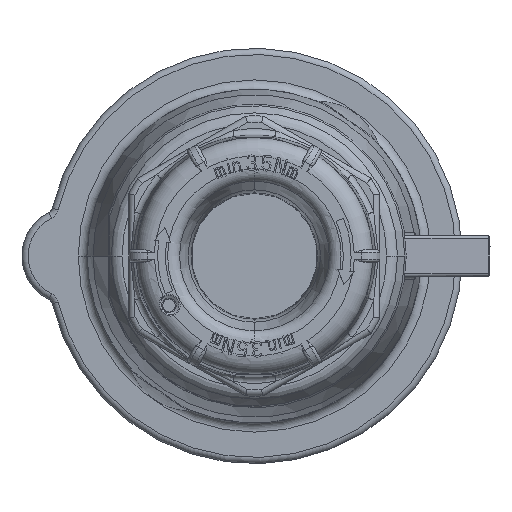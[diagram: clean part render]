
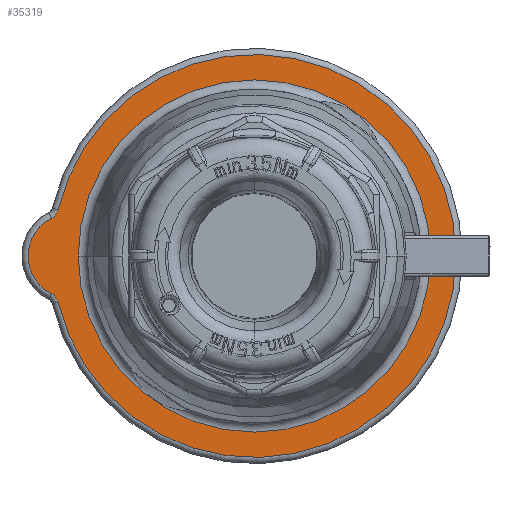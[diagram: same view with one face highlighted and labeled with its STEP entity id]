
A CAD part, front view. The second image highlights one B-rep face of the part: STEP entity #35319.
In plain terms, the highlighted planar face has unit normal (0, -1, 0).
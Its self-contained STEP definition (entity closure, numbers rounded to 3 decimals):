
#315=CARTESIAN_POINT('',(0.,-3.6,0.));
#316=DIRECTION('',(0.,-1.,0.));
#317=DIRECTION('',(-0.973,0.,-0.229));
#318=AXIS2_PLACEMENT_3D('',#315,#316,#317);
#368=CARTESIAN_POINT('',(-33.584,-3.6,7.896));
#369=DIRECTION('',(0.,1.,0.));
#370=DIRECTION('',(0.973,0.,-0.229));
#371=AXIS2_PLACEMENT_3D('',#368,#369,#370);
#378=CARTESIAN_POINT('',(-29.7,-3.6,0.));
#379=DIRECTION('',(0.,1.,0.));
#380=DIRECTION('',(-0.441,0.,-0.897));
#381=AXIS2_PLACEMENT_3D('',#378,#379,#380);
#398=CARTESIAN_POINT('',(-33.584,-3.6,-7.896));
#399=DIRECTION('',(0.,-1.,0.));
#400=DIRECTION('',(0.973,0.,0.229));
#401=AXIS2_PLACEMENT_3D('',#398,#399,#400);
#8714=CARTESIAN_POINT('',(0.,-3.6,0.));
#8715=DIRECTION('',(0.,-1.,0.));
#8716=DIRECTION('',(1.,0.,0.));
#8717=AXIS2_PLACEMENT_3D('',#8714,#8715,#8716);
#8724=CARTESIAN_POINT('',(0.,-3.6,0.));
#8725=DIRECTION('',(0.,1.,0.));
#8726=DIRECTION('',(1.,0.,0.));
#8727=AXIS2_PLACEMENT_3D('',#8724,#8725,#8726);
#29924=CARTESIAN_POINT('',(-32.701,-3.6,-6.102));
#29925=CARTESIAN_POINT('',(-32.701,-3.6,6.102));
#29926=VERTEX_POINT('',#29924);
#29927=VERTEX_POINT('',#29925);
#29934=CARTESIAN_POINT('',(-31.637,-3.6,7.439));
#29935=VERTEX_POINT('',#29934);
#29938=CARTESIAN_POINT('',(-31.637,-3.6,-7.439));
#29939=VERTEX_POINT('',#29938);
#29956=CARTESIAN_POINT('',(28.4,-3.6,0.));
#29957=CARTESIAN_POINT('',(-28.4,-3.6,0.));
#29958=VERTEX_POINT('',#29956);
#29959=VERTEX_POINT('',#29957);
#35298=CARTESIAN_POINT('',(0.,-3.6,0.));
#35299=DIRECTION('',(0.,-1.,0.));
#35300=DIRECTION('',(-1.,0.,0.));
#35301=AXIS2_PLACEMENT_3D('',#35298,#35299,#35300);
#35302=PLANE('40',#35301);
#35304=ORIENTED_EDGE('2846',*,*,#35303,.F.);
#35306=ORIENTED_EDGE('2849',*,*,#35305,.T.);
#35308=ORIENTED_EDGE('2840',*,*,#35307,.T.);
#35310=ORIENTED_EDGE('2843',*,*,#35309,.F.);
#35311=EDGE_LOOP('40',(#35304,#35306,#35308,#35310));
#35312=FACE_OUTER_BOUND('40',#35311,.F.);
#35314=ORIENTED_EDGE('2868',*,*,#35313,.T.);
#35316=ORIENTED_EDGE('2870',*,*,#35315,.F.);
#35317=EDGE_LOOP('40',(#35314,#35316));
#35318=FACE_BOUND('40',#35317,.F.);
#319=CIRCLE('2846',#318,32.5);
#372=CIRCLE('2843',#371,2.);
#382=CIRCLE('2840',#381,6.8);
#402=CIRCLE('2849',#401,2.);
#8718=CIRCLE('2868',#8717,28.4);
#8728=CIRCLE('2870',#8727,28.4);
#35303=EDGE_CURVE('2846',#29939,#29935,#319,.T.);
#35305=EDGE_CURVE('2849',#29939,#29926,#402,.T.);
#35307=EDGE_CURVE('2840',#29926,#29927,#382,.T.);
#35309=EDGE_CURVE('2843',#29935,#29927,#372,.T.);
#35313=EDGE_CURVE('2868',#29958,#29959,#8718,.T.);
#35315=EDGE_CURVE('2870',#29958,#29959,#8728,.T.);
#35319=ADVANCED_FACE('40',(#35312,#35318),#35302,.T.);
